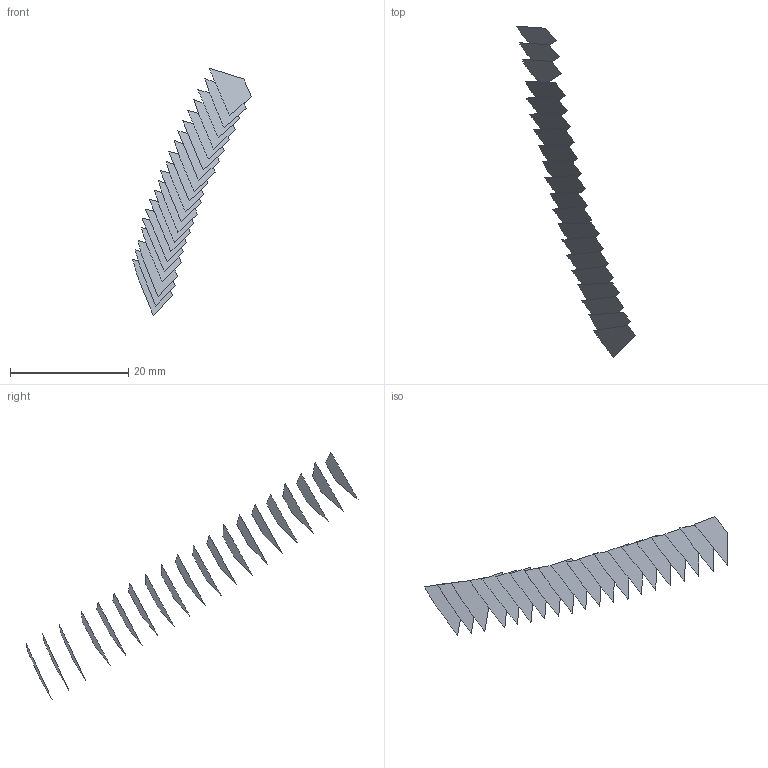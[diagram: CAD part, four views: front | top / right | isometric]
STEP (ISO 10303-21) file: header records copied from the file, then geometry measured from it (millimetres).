
FILE_DESCRIPTION(('FreeCAD Model'),'2;1');
FILE_NAME('Open CASCADE Shape Model','2022-05-22T07:50:31',('FreeCAD'),( 'FreeCAD'),'Open CASCADE STEP processor 7.5','FreeCAD','Unknown');
FILE_SCHEMA(('AUTOMOTIVE_DESIGN { 1 0 10303 214 1 1 1 1 }'));
Length unit declared in the file: millimetre
Products named in the file (21): Open CASCADE STEP translator 7.5 16; Open CASCADE STEP translator 7.5 16.1; Open CASCADE STEP translator 7.5 16.2; Open CASCADE STEP translator 7.5 16.3; Open CASCADE STEP translator 7.5 16.4; Open CASCADE STEP translator 7.5 16.5; Open CASCADE STEP translator 7.5 16.6; Open CASCADE STEP translator 7.5 16.7; Open CASCADE STEP translator 7.5 16.8; Open CASCADE STEP translator 7.5 16.9; Open CASCADE STEP translator 7.5 16.10; Open CASCADE STEP translator 7.5 16.11; Open CASCADE STEP translator 7.5 16.12; Open CASCADE STEP translator 7.5 16.13; Open CASCADE STEP translator 7.5 16.14; Open CASCADE STEP translator 7.5 16.15; Open CASCADE STEP translator 7.5 16.16; Open CASCADE STEP translator 7.5 16.17; Open CASCADE STEP translator 7.5 16.18; Open CASCADE STEP translator 7.5 16.19; Open CASCADE STEP translator 7.5 16.20
Assembly tree (20 placements, depth 2):
  Open CASCADE STEP translator 7.5 16
    Open CASCADE STEP translator 7.5 16.1
    Open CASCADE STEP translator 7.5 16.2
    Open CASCADE STEP translator 7.5 16.3
    Open CASCADE STEP translator 7.5 16.4
    Open CASCADE STEP translator 7.5 16.5
    Open CASCADE STEP translator 7.5 16.6
    Open CASCADE STEP translator 7.5 16.7
    Open CASCADE STEP translator 7.5 16.8
    Open CASCADE STEP translator 7.5 16.9
    Open CASCADE STEP translator 7.5 16.10
    Open CASCADE STEP translator 7.5 16.11
    Open CASCADE STEP translator 7.5 16.12
    Open CASCADE STEP translator 7.5 16.13
    Open CASCADE STEP translator 7.5 16.14
    Open CASCADE STEP translator 7.5 16.15
    Open CASCADE STEP translator 7.5 16.16
    Open CASCADE STEP translator 7.5 16.17
    Open CASCADE STEP translator 7.5 16.18
    Open CASCADE STEP translator 7.5 16.19
    Open CASCADE STEP translator 7.5 16.20
Bounding box: 20.04 x 56.05 x 41.79 mm (x, y, z)
Surface area: 714.1 mm2 (no closed solid volume)
Topology: 0 solids, 20 shells, 20 faces, 435 edges, 435 vertices
Faces by surface type: bspline 20
Entity records: 6231 total; most frequent: CARTESIAN_POINT 2276, B_SPLINE_CURVE_WITH_KNOTS 870, ORIENTED_EDGE 435, EDGE_CURVE 435, VERTEX_POINT 435, SURFACE_CURVE 435, PCURVE 435, DEFINITIONAL_REPRESENTATION 435
